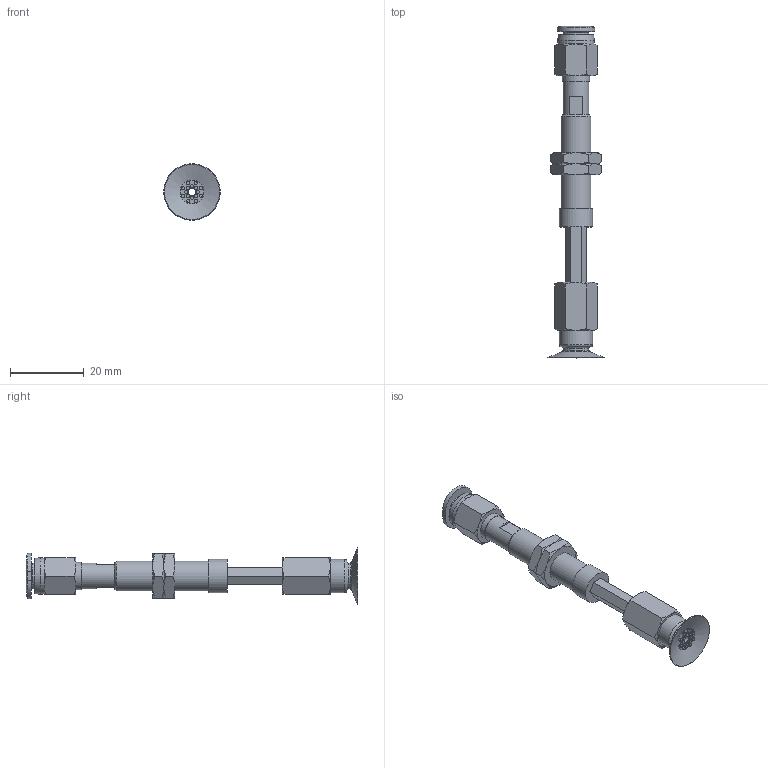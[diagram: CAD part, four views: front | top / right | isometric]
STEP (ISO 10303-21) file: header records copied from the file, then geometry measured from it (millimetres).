
FILE_DESCRIPTION(('STEP AP203'),'1');
FILE_NAME('-O.stp','2025-08-21T07:59:05',(' '),(' '),'Spatial InterOp 3D',' ',' ');
FILE_SCHEMA(('CONFIG_CONTROL_DESIGN'));
Length unit declared in the file: millimetre
Products named in the file (7): BNABPATH-15A-15-※-O; NAPATH-10A-15--F; Nut-10A-S; PC-C_06-M5; BPAG-15A-※; ADAPTER; NAPATH-10A-15--M
Assembly tree (7 placements, depth 2):
  BNABPATH-15A-15-※-O
    NAPATH-10A-15--F
    Nut-10A-S  x2
    PC-C_06-M5
    BPAG-15A-※
    ADAPTER
    NAPATH-10A-15--M
Bounding box: 15.3 x 89.98 x 15.3 mm (x, y, z)
Volume: 4768.3 mm3; surface area: 6029 mm2
Topology: 7 solids, 7 shells, 205 faces, 411 edges, 252 vertices
Faces by surface type: plane 86, cone 61, cylinder 40, torus 11, bspline 4, revolution 3
Full cylindrical faces by diameter (mm): 0.9 x16, 2 x3, 4 x4, 4.134 x1, 5 x1, 6 x2, 7 x3, 7.188 x2, 7.4 x1, 8 x1, 8.2 x1, 9 x2, 10 x1
Entity records: 5100 total; most frequent: CARTESIAN_POINT 1345, DIRECTION 715, ORIENTED_EDGE 584, AXIS2_PLACEMENT_3D 320, EDGE_CURVE 292, EDGE_LOOP 284, FACE_OUTER_BOUND 230, VERTEX_POINT 214
